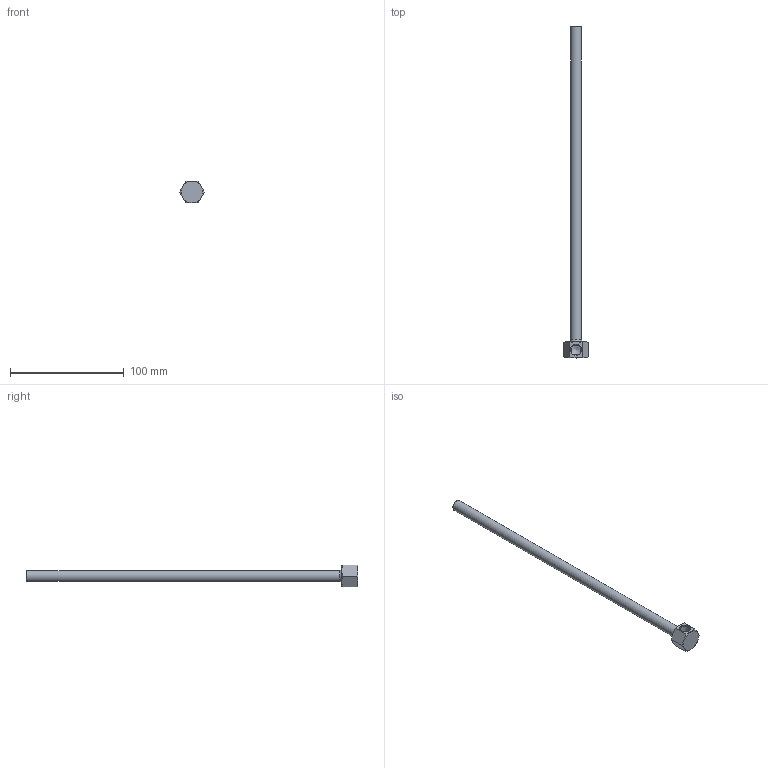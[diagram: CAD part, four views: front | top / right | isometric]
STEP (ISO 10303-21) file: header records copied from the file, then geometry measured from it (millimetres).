
FILE_DESCRIPTION(/* description */ (''),/* implementation_level */ '2;1');
FILE_NAME(/* name */ 'C:/Users/drich/Desktop/18B-11-1_2 v1.step',/* time_stamp */ '2019-12-29T15:21:29-06:00',/* author */ (''),/* organization */ (''),/* preprocessor_version */ 'ST-DEVELOPER v18',/* originating_system */ 'Autodesk Translation Framework v8.12.0.6',/* authorisation */ '');
FILE_SCHEMA (('AUTOMOTIVE_DESIGN { 1 0 10303 214 3 1 1 }'));
Length unit declared in the file: inch
Products named in the file (1): 18B-11-1_2
Bounding box: 22 x 292.1 x 19.05 mm (x, y, z)
Volume: 14987 mm3; surface area: 15783.1 mm2
Topology: 1 solids, 1 shells, 19 faces, 48 edges, 31 vertices
Faces by surface type: plane 9, cone 6, cylinder 3, torus 1
Full cylindrical faces by diameter (mm): 6.35 x1, 8.707 x1, 9.621 x1
Entity records: 633 total; most frequent: CARTESIAN_POINT 159, ORIENTED_EDGE 94, DIRECTION 89, EDGE_CURVE 47, AXIS2_PLACEMENT_3D 37, VERTEX_POINT 31, EDGE_LOOP 22, FACE_OUTER_BOUND 19
